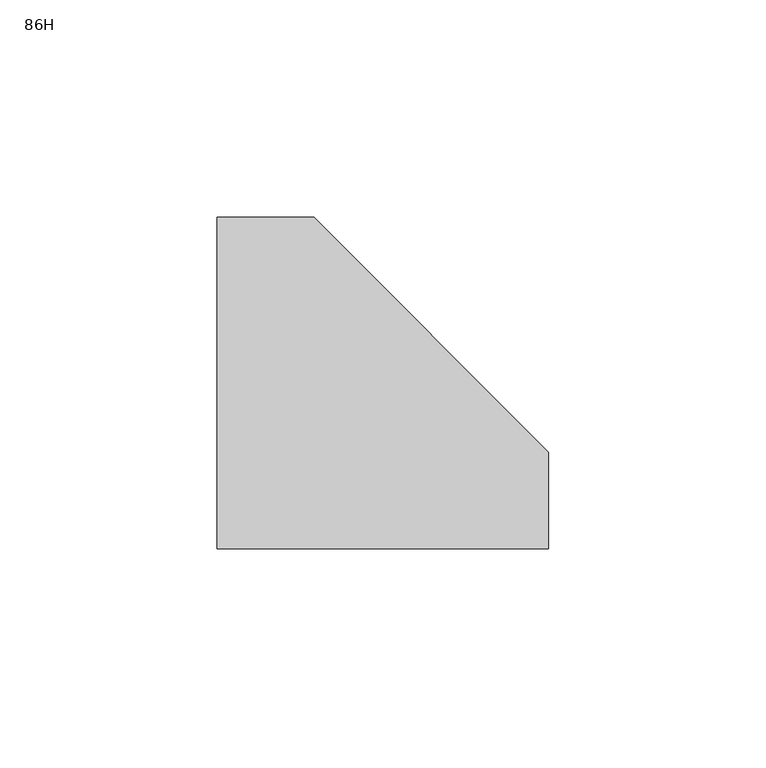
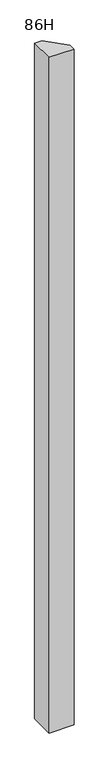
"""IFC4 building model written with IfcOpenShell, lengths in millimetres: furniture geometry, Steelcase - Montage - Junction - Y - Same-Height : 86H."""

from ifc_helpers import new_model, si_unit, frame, origin, place, context, project, spatial, polyline, outline, extrude, source, transform, mapped, element, save


def furniture_86h_15c8565b(model_context):
    return source(origin(), model_context, "Body", "SweptSolid", [
        extrude(outline(polyline([(457.2, -38.1000015), (457.2, 38.1000015), (479.424997, 38.1000015), (533.4, -15.8750015), (533.4, -38.1000015), (457.2, -38.1000015)])), frame((0.0, 0.0, 3.9624), z_axis=(0.0, 0.0, 1.0), x_axis=(1.0, 0.0, 0.0)), (0.0, 0.0, 1.0), 2180.4376),
    ])


if __name__ == "__main__":
    model = new_model("IFC4")
    model_context = context("Model", 3, world=origin())
    ifc_project = project(units=[si_unit("LENGTHUNIT", "METRE", prefix="MILLI")], contexts=[model_context])
    site = spatial("IfcSite", under=ifc_project)
    building = spatial("IfcBuilding", under=site)
    placement = place(None, origin())
    furniture_86h_shape = furniture_86h_15c8565b(model_context)
    element("IfcFurniture", 1, ObjectType="Steelcase - Montage - Junction - Y - Same-Height : 86H", at=placement, inside=building, context=model_context, shape_type="MappedRepresentation", body=[
        mapped(furniture_86h_shape, transform((0.0, 0.0, 0.0), x_axis=(1.0, 0.0, 0.0), y_axis=(0.0, 1.0, 0.0), z_axis=(0.0, 0.0, 1.0))),
    ])
    save(model, "model.ifc")
